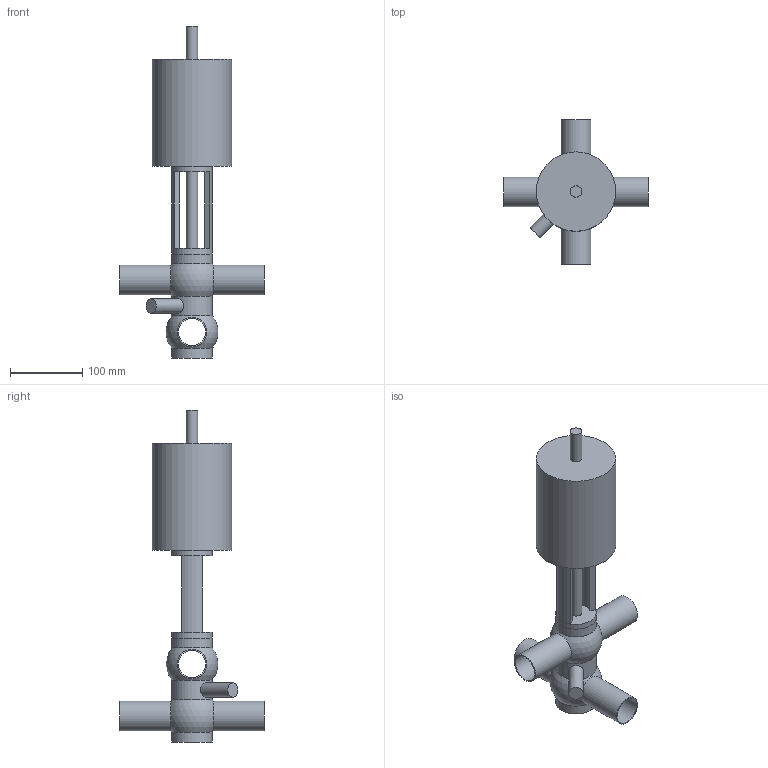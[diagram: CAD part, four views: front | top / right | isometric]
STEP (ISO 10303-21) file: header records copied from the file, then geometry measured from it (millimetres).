
FILE_DESCRIPTION(('FreeCAD Model'),'2;1');
FILE_NAME( '/home/martin/Documents/proyect/valves/stp/valve_TT_DN-40.step', '2018-01-12T21:41:33',('Author'),(''), 'Open CASCADE STEP processor 6.8','FreeCAD','Unknown');
FILE_SCHEMA(('AUTOMOTIVE_DESIGN_CC2 { 1 2 10303 214 -1 1 5 4 }'));
Length unit declared in the file: millimetre
Products named in the file (3): ASSEMBLY; valve_TT_DN-40-body; valve_TT_DN-40-head
Assembly tree (2 placements, depth 2):
  ASSEMBLY
    valve_TT_DN-40-body
    valve_TT_DN-40-head
Bounding box: 200 x 200 x 460 mm (x, y, z)
Volume: 1762190.1 mm3; surface area: 222392.1 mm2
Topology: 2 solids, 2 shells, 45 faces, 104 edges, 67 vertices
Faces by surface type: cylinder 23, plane 18, sphere 4
Full cylindrical faces by diameter (mm): 16 x2, 20 x1, 38 x5, 41 x4, 56 x5, 110 x1
Entity records: 4023 total; most frequent: CARTESIAN_POINT 1639, DIRECTION 435, ORIENTED_EDGE 204, PCURVE 204, DEFINITIONAL_REPRESENTATION 204, LINE 182, VECTOR 182, AXIS2_PLACEMENT_3D 111
